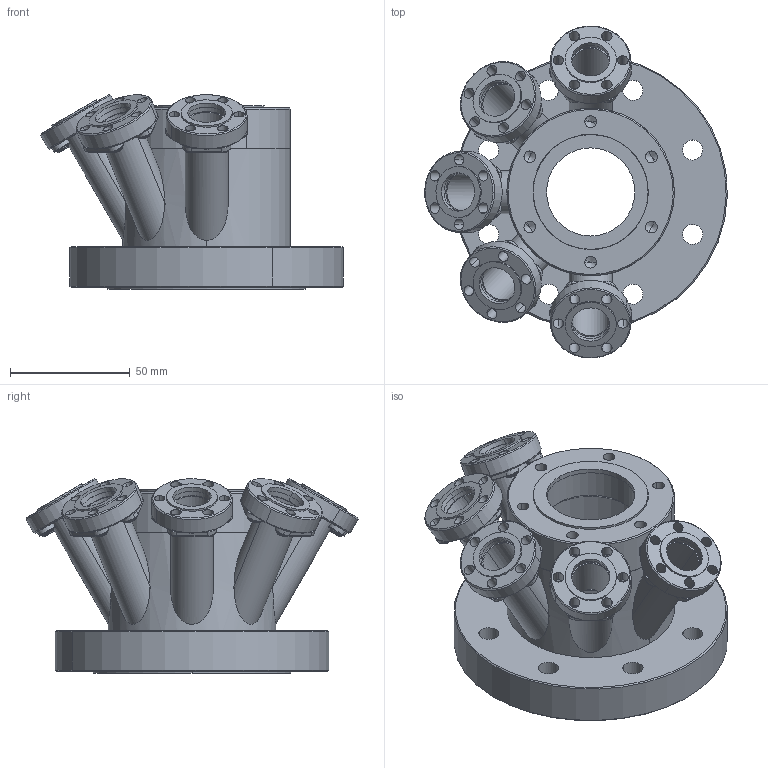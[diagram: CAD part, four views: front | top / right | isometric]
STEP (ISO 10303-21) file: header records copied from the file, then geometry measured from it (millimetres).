
FILE_DESCRIPTION(('Confidential','CAx-IF Rec.Pracs.--- Model Styling and Organization---1.2---2011-12-15'),'2;1');
FILE_NAME('W:\KONSTRUKTION\PRODUCTS\MP\MPCF\MPCF63\MPCF63CF40T5XCF1630DEG\DOC\MPCF63CF40T5XCF1630DEG_Rev_C.stp','2025-07-16T06:12:05+00:00',('none'),('Ferrovac AG'),'CATIA Version 5 Release 21 SP 6 (IN-10)','CATIA V5 STEP AP214 Edition 3','PROPERTY OF FERROVAC AG');
FILE_SCHEMA(('AUTOMOTIVE_DESIGN { 1 0 10303 214 3 1 1 1 }'));
Length unit declared in the file: millimetre
Products named in the file (13): MPCF63CF40T5XCF1630DEG; MPCF63CF40T5XCF1630DEG_P1; 25769; MPCF63CF40T5XCF1630DEG__P3; BOPNCF16; BOPNCF16DUMMY; 39104013; GACF16; 60554; GACF40; 60557; GACF63S; 60559
Assembly tree (26 placements, depth 3):
  MPCF63CF40T5XCF1630DEG
    MPCF63CF40T5XCF1630DEG_P1
    25769
    MPCF63CF40T5XCF1630DEG__P3  x5
    BOPNCF16  x5
      BOPNCF16DUMMY
      39104013
    GACF16  x5
      60554
    GACF40
      60557
    GACF63S
      60559
Bounding box: 126.52 x 138.76 x 81.29 mm (x, y, z)
Volume: 190983.5 mm3; surface area: 106809 mm2
Topology: 35 solids, 35 shells, 1027 faces, 2426 edges, 1471 vertices
Faces by surface type: cylinder 477, torus 315, plane 144, cone 76, bspline 15
Entity records: 8576 total; most frequent: CARTESIAN_POINT 2258, ORIENTED_EDGE 1304, DIRECTION 1036, EDGE_CURVE 652, AXIS2_PLACEMENT_3D 566, VERTEX_POINT 415, CIRCLE 343, EDGE_LOOP 329
